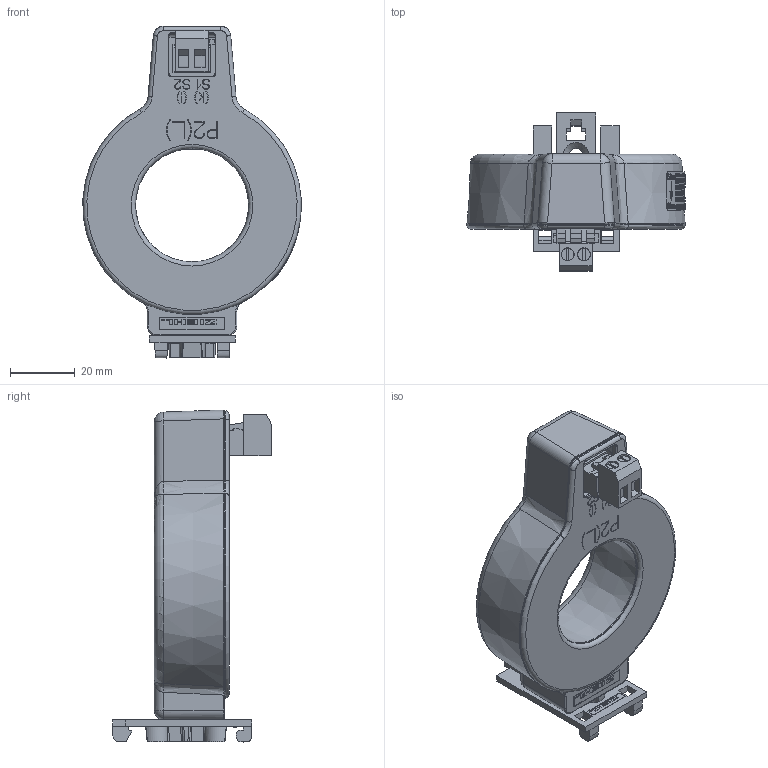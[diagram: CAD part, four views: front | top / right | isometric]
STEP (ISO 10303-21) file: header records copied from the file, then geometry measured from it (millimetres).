
FILE_DESCRIPTION (( 'STEP AP214' ), '1' );
FILE_NAME ('12580-1909-00_3D_35mm.STEP', '2013-12-10T13:36:43', ( '' ), ( '' ), 'SwSTEP 2.0', 'SolidWorks 2013', '' );
FILE_SCHEMA (( 'AUTOMOTIVE_DESIGN' ));
Length unit declared in the file: millimetre
Products named in the file (29): 31020102; S1; ASSEMBLY_3; SOLID_9; SOLID_8; PR1; ASSEMBLY_2; SOLID_6; SOLID_5; SOLID_4; 12580-1201-02_3D; SOLID_3; STWA3D_Gegenstecker; SOLID_2; 12580-1900-01 Tragschienenhalter; PQ1; Leiterplatte; Board; S2; ASSEMBLY; V1; SOLID; ASSEMBLY_5; 12580-1904-02 Deckel Ø35mm; SOLID_7; 12580-1903-02 Unterteil Ø35mm; X1; ASSEMBLY_4; 12580-1909-00_3D_35mm
Assembly tree (29 placements, depth 5):
  12580-1909-00_3D_35mm
    12580-1903-02 Unterteil Ø35mm
    12580-1904-02 Deckel Ø35mm
    Leiterplatte
      PQ1
        ASSEMBLY
          SOLID
        Board
      PR1
        ASSEMBLY_2
          SOLID_2
          SOLID_3
          SOLID_4
          SOLID_5
          SOLID_6
      S1
        ASSEMBLY_3
          SOLID_8
          SOLID_9
      X1
        ASSEMBLY_4
          31020102
      V1
        ASSEMBLY_5
          SOLID_7
      S2
        ASSEMBLY_3
          SOLID_8
          SOLID_9
    12580-1900-01 Tragschienenhalter
    STWA3D_Gegenstecker
    12580-1201-02_3D
Bounding box: 67.24 x 48.82 x 102.24 mm (x, y, z)
Volume: 27536.7 mm3; surface area: 38937.9 mm2
Topology: 303 solids, 305 shells, 3621 faces, 8875 edges, 5821 vertices
Faces by surface type: plane 1525, cylinder 926, bspline 810, torus 162, sphere 150, cone 48
Full cylindrical faces by diameter (mm): 0.7 x2, 1 x4, 1.3 x2, 1.309 x1, 1.454 x3, 1.5 x2, 2.2 x2, 3.807 x2, 4 x6, 4.42 x2, 6 x1, 36.7 x1, 37 x1, 39 x1
Entity records: 203996 total; most frequent: CARTESIAN_POINT 113305, ORIENTED_EDGE 17074, DIRECTION 10941, EDGE_CURVE 8537, VERTEX_POINT 5692, EDGE_LOOP 3881, AXIS2_PLACEMENT_3D 3787, FACE_OUTER_BOUND 3659
